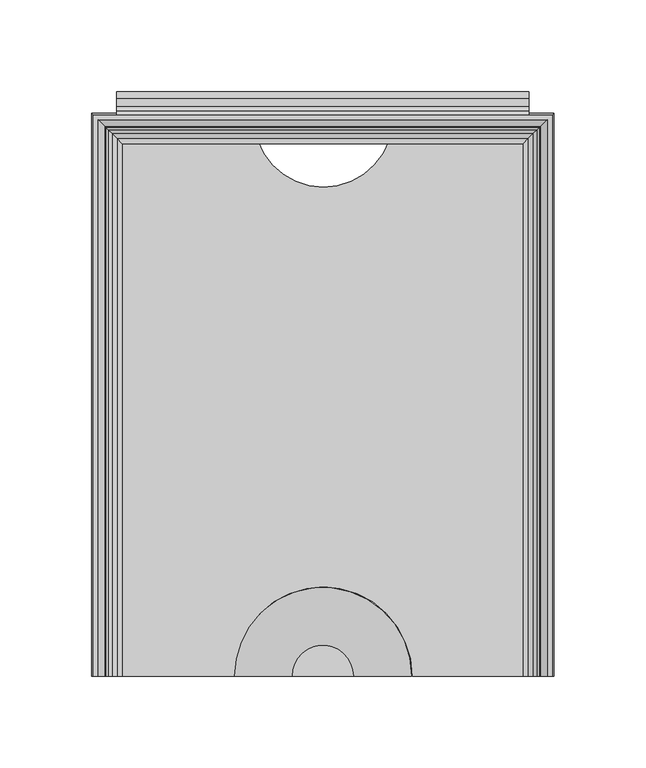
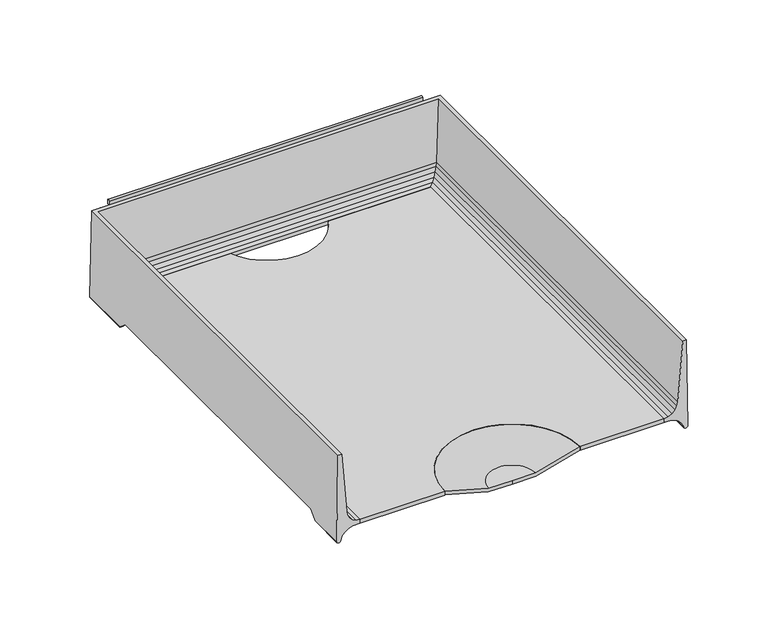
"""IFC4 building model written with IfcOpenShell, lengths in millimetres: furniture geometry."""

import ifcopenshell
import ifcopenshell.guid

model = None  # the IFC model being written
_history = None  # IfcOwnerHistory: only IFC2X3 demands one
_inside = {}  # id of a spatial element -> (the spatial element, [elements in it])
_under = {}  # id of a project, library or spatial element -> (it, [spatial elements below it])
_declared = {}  # id of a project -> (the project, [libraries it declares])
_typed = {}  # id of a type object -> (the type object, [elements of that type])
_made_of = {}  # id of a material, layer set ... -> (it, [elements and type objects made of it])


def new_model(schema):
    """Start an empty IFC model of exactly this schema.

    Asked for "IFC4X3", IfcOpenShell would pick the latest addendum, in which some entities
    have other attributes; the version numbers below select the first issue.
    IFC2X3 requires an IfcOwnerHistory on every rooted entity: one is made here for all.
    """
    global model, _history
    if schema == "IFC4X3":
        model = ifcopenshell.file(schema_version=(4, 3, 0, 0))
    else:
        model = ifcopenshell.file(schema=schema)
    _inside.clear()
    _under.clear()
    _declared.clear()
    _typed.clear()
    _made_of.clear()
    _history = None
    if model.schema == "IFC2X3":
        org = make("IfcOrganization", Name="unknown")
        user = make(
            "IfcPersonAndOrganization",
            ThePerson=make("IfcPerson", FamilyName="unknown"),
            TheOrganization=org,
        )
        app = make(
            "IfcApplication",
            ApplicationDeveloper=org,
            Version="unknown",
            ApplicationFullName="unknown",
            ApplicationIdentifier="unknown",
        )
        _history = make(
            "IfcOwnerHistory",
            OwningUser=user,
            OwningApplication=app,
            ChangeAction="ADDED",
            CreationDate=0,
        )
    return model


def make(cls, **values):
    """One entity of the class cls with the attributes given. An attribute that is None is left unset."""
    return model.create_entity(
        cls, **{name: value for name, value in values.items() if value is not None}
    )


def rooted(cls, **values):
    """An entity with a GlobalId (a new one), such as an element, a storey or a relation."""
    return make(cls, GlobalId=ifcopenshell.guid.new(), OwnerHistory=_history, **values)


def si_unit(unit_type, name, prefix=None):
    """IfcSIUnit, for example si_unit("LENGTHUNIT", "METRE", prefix="MILLI")."""
    return make("IfcSIUnit", UnitType=unit_type, Prefix=prefix, Name=name)


def assignment(units):
    """IfcUnitAssignment: the units of a project."""
    return None if units is None else make("IfcUnitAssignment", Units=units)


def point(xyz):
    """IfcCartesianPoint."""
    return None if xyz is None else make("IfcCartesianPoint", Coordinates=xyz)


def direction(xyz):
    """IfcDirection."""
    return None if xyz is None else make("IfcDirection", DirectionRatios=xyz)


def frame(location, z_axis=None, x_axis=None):
    """IfcAxis2Placement3D, a coordinate frame: its origin and axes. An axis left out is left unset."""
    return make(
        "IfcAxis2Placement3D",
        Location=point(location),
        Axis=direction(z_axis),
        RefDirection=direction(x_axis),
    )


def frame_2d(location, x_axis=None):
    """IfcAxis2Placement2D, a coordinate frame in the plane: its origin and x axis."""
    return make(
        "IfcAxis2Placement2D", Location=point(location), RefDirection=direction(x_axis)
    )


def origin():
    """The frame at (0, 0, 0) with its axes left unset."""
    return frame((0.0, 0.0, 0.0))


def place(relative_to, where):
    """IfcLocalPlacement: puts the frame where relative to a parent placement (None: the world)."""
    return make(
        "IfcLocalPlacement", PlacementRelTo=relative_to, RelativePlacement=where
    )


def context(
    kind, dimensions, precision=None, world=None, true_north=None, identifier=None
):
    """IfcGeometricRepresentationContext, for example the 3D "Model" context."""
    return make(
        "IfcGeometricRepresentationContext",
        ContextIdentifier=identifier,
        ContextType=kind,
        CoordinateSpaceDimension=dimensions,
        Precision=precision,
        WorldCoordinateSystem=world,
        TrueNorth=true_north,
    )


def project(units=None, contexts=None):
    """IfcProject with its units and contexts."""
    return rooted(
        "IfcProject",
        Name="project",
        RepresentationContexts=contexts,
        UnitsInContext=assignment(units),
    )


def spatial(cls, under=None, at=None, **own):
    """A site, building, storey or space (cls), placed at a placement, below another one or the project."""
    s = rooted(cls, ObjectPlacement=at, **own)
    if under is not None:
        _under.setdefault(under.id(), (under, []))[1].append(s)
    return s


def polyline(points):
    """IfcPolyline through the points."""
    return make("IfcPolyline", Points=[point(p) for p in points])


def circle_curve(where, radius):
    """IfcCircle in the frame where."""
    return make("IfcCircle", Position=where, Radius=radius)


def ellipse_curve(where, semi_axis1, semi_axis2):
    """IfcEllipse in the frame where."""
    return make(
        "IfcEllipse", Position=where, SemiAxis1=semi_axis1, SemiAxis2=semi_axis2
    )


def trimmed(basis, trim1, trim2, sense, master):
    """IfcTrimmedCurve: the piece of a basis curve between two trims."""
    return make(
        "IfcTrimmedCurve",
        BasisCurve=basis,
        Trim1=trim1,
        Trim2=trim2,
        SenseAgreement=sense,
        MasterRepresentation=master,
    )


def segment(curve, same_sense, transition):
    """IfcCompositeCurveSegment."""
    return make(
        "IfcCompositeCurveSegment",
        Transition=transition,
        SameSense=same_sense,
        ParentCurve=curve,
    )


def composite_curve(segments, self_intersect=None):
    """IfcCompositeCurve: segments joined end to end."""
    return make("IfcCompositeCurve", Segments=segments, SelfIntersect=self_intersect)


def outline(outer, holes=None, kind="AREA"):
    """IfcArbitraryClosedProfileDef: a profile drawn as a closed curve; with holes, ...WithVoids."""
    if holes is None:
        return make("IfcArbitraryClosedProfileDef", ProfileType=kind, OuterCurve=outer)
    return make(
        "IfcArbitraryProfileDefWithVoids",
        ProfileType=kind,
        OuterCurve=outer,
        InnerCurves=holes,
    )


def extrude(swept, where, along, depth):
    """IfcExtrudedAreaSolid: the profile swept, set in the frame where, extruded along a direction by depth."""
    return make(
        "IfcExtrudedAreaSolid",
        SweptArea=swept,
        Position=where,
        ExtrudedDirection=direction(along),
        Depth=depth,
    )


def shape(context_of_items, identifier, shape_type, items):
    """IfcShapeRepresentation: the items that make up one representation, for example the "Body"."""
    return make(
        "IfcShapeRepresentation",
        ContextOfItems=context_of_items,
        RepresentationIdentifier=identifier,
        RepresentationType=shape_type,
        Items=items,
    )


def source(mapping_origin, context_of_items, identifier, shape_type, items):
    """IfcRepresentationMap: a shape defined once, which mapped items show again and again."""
    return make(
        "IfcRepresentationMap",
        MappingOrigin=mapping_origin,
        MappedRepresentation=shape(context_of_items, identifier, shape_type, items),
    )


def transform(
    local_origin,
    x_axis=None,
    y_axis=None,
    z_axis=None,
    scale=None,
    scale2=None,
    scale3=None,
    uniform=True,
):
    """IfcCartesianTransformationOperator3D, or its non-uniform kind. x_axis, y_axis, z_axis: its Axis1, 2, 3."""
    if uniform:
        return make(
            "IfcCartesianTransformationOperator3D",
            Axis1=direction(x_axis),
            Axis2=direction(y_axis),
            LocalOrigin=point(local_origin),
            Scale=scale,
            Axis3=direction(z_axis),
        )
    return make(
        "IfcCartesianTransformationOperator3DnonUniform",
        Axis1=direction(x_axis),
        Axis2=direction(y_axis),
        LocalOrigin=point(local_origin),
        Scale=scale,
        Axis3=direction(z_axis),
        Scale2=scale2,
        Scale3=scale3,
    )


def mapped(mapping_source, mapping_target):
    """IfcMappedItem: shows the shape of a source again, moved by a transform."""
    return make(
        "IfcMappedItem", MappingSource=mapping_source, MappingTarget=mapping_target
    )


def made_of(thing, what):
    """Note that an element or type object is made of a material, layer set ...; save() writes the relation."""
    if what is not None:
        _made_of.setdefault(what.id(), (what, []))[1].append(thing)
    return thing


def element(
    cls,
    number,
    at=None,
    inside=None,
    cuts=None,
    type_object=None,
    material=None,
    context=None,
    identifier="Body",
    shape_type=None,
    held_by="IfcProductDefinitionShape",
    body=None,
    shapes=None,
    **own,
):
    """One element of the class cls, such as IfcWall. Its Tag is "e" and its number.

    at: its placement. inside: the storey or other place that contains it. cuts: it is an
    opening in that element (IfcRelVoidsElement). A single representation is given by context,
    identifier, shape_type and body (its items); several are given by shapes. held_by: the class
    of the entity that holds the representations. save() writes the other relations.
    """
    e = rooted(cls, Tag="e%d" % number, ObjectPlacement=at, **own)
    if body is not None:
        shapes = [shape(context, identifier, shape_type, body)]
    if shapes is not None:
        e.Representation = make(held_by, Representations=shapes)
    if inside is not None:
        _inside.setdefault(inside.id(), (inside, []))[1].append(e)
    if cuts is not None:
        rooted(
            "IfcRelVoidsElement", RelatingBuildingElement=cuts, RelatedOpeningElement=e
        )
    if type_object is not None:
        _typed.setdefault(type_object.id(), (type_object, []))[1].append(e)
    return made_of(e, material)


def aggregate(whole, parts):
    """IfcRelAggregates: a whole, such as a stair, and the parts it consists of."""
    return rooted("IfcRelAggregates", RelatingObject=whole, RelatedObjects=parts)


def save(model, path):
    """Write the relations noted so far, then the file.

    IfcRelAggregates (storeys below a building ...), IfcRelContainedInSpatialStructure (elements
    in a storey), IfcRelDefinesByType, IfcRelAssociatesMaterial and IfcRelDeclares: one each for
    every whole, place, type object, material and project.
    """
    for whole, parts in _under.values():
        aggregate(whole, parts)
    for where, things in _inside.values():
        rooted(
            "IfcRelContainedInSpatialStructure",
            RelatedElements=things,
            RelatingStructure=where,
        )
    for kind, things in _typed.values():
        rooted("IfcRelDefinesByType", RelatedObjects=things, RelatingType=kind)
    for what, things in _made_of.values():
        rooted("IfcRelAssociatesMaterial", RelatedObjects=things, RelatingMaterial=what)
    for by, libraries in _declared.values():
        rooted("IfcRelDeclares", RelatingContext=by, RelatedDefinitions=libraries)
    model.write(path)


def plane_surface(at):
    """IfcPlane: the flat surface through the origin of the frame at, square to its z axis."""
    return make("IfcPlane", Position=at)


def cylinder_surface(at, radius):
    """IfcCylindricalSurface: all points at the distance radius from the z axis of the frame at."""
    return make("IfcCylindricalSurface", Position=at, Radius=radius)


def revolved_surface(curve, axis_point, axis_direction):
    """IfcSurfaceOfRevolution: the curve turned about the line through axis_point along axis_direction."""
    return make(
        "IfcSurfaceOfRevolution",
        SweptCurve=make("IfcArbitraryOpenProfileDef", ProfileType="CURVE", Curve=curve),
        AxisPosition=make("IfcAxis1Placement", Location=point(axis_point), Axis=direction(axis_direction)),
    )


def advanced_brep(points, edges, surfaces, faces):
    """IfcAdvancedBrep: a solid bounded by faces that lie on surfaces and meet in shared edges.

    An edge is (start, end): straight between two places in points (the first is 0);
    or (start, end, curve); or (start, end, curve, False) where it runs against its curve.
    A face is (place in surfaces, loops), or (place, loops, False) where it looks against
    its surface's normal. A loop lists edges by number (the first is 1), with a minus sign
    where the edge is run from its end to its start. The first loop is the outer one.
    """
    corners = [point(p) for p in points]
    vertices = [make("IfcVertexPoint", VertexGeometry=c) for c in corners]
    made = []
    for start, end, *more in edges:
        made.append(
            make(
                "IfcEdgeCurve",
                EdgeStart=vertices[start],
                EdgeEnd=vertices[end],
                EdgeGeometry=more[0] if more else make("IfcPolyline", Points=[corners[start], corners[end]]),
                SameSense=more[1] if len(more) > 1 else True,
            )
        )
    hull = []
    for where, loops, *sense in faces:
        bounds = []
        for j, loop in enumerate(loops):
            ring = [make("IfcOrientedEdge", EdgeElement=made[abs(k) - 1], Orientation=k > 0) for k in loop]
            bounds.append(
                make(
                    "IfcFaceOuterBound" if j == 0 else "IfcFaceBound",
                    Bound=make("IfcEdgeLoop", EdgeList=ring),
                    Orientation=True,
                )
            )
        hull.append(make("IfcAdvancedFace", Bounds=bounds, FaceSurface=surfaces[where], SameSense=sense[0] if sense else True))
    return make("IfcAdvancedBrep", Outer=make("IfcClosedShell", CfsFaces=hull))


def furniture_f3e254ba(model_context):
    return source(origin(), model_context, "Body", "SolidModel", [
        advanced_brep(
        [(126.0820502, -154.0206082, 810.9007489), (125.1325529, -154.0206082, 876.3001914), (122.4547921, -154.0206082, 876.3001914), (118.8379747, -154.0206082, 831.5131003), (118.4123648, -154.0206082, 828.7796052), (117.0774354, -154.0206082, 826.0785664), (114.9656457, -154.0206082, 823.9296015), (112.28832, -154.0206082, 822.5477261), (109.3133381, -154.0206082, 822.0712052), (109.3133381, -154.0206082, 819.2490971), (114.5666739, -154.0206082, 819.0560987), (117.605351, -154.0206082, 817.9997218), (120.2416, -154.0206082, 816.1558822), (122.2762142, -154.0206082, 813.6639079), (123.1625518, -154.0206082, 810.6206655), (126.0820502, -127.6379698, 810.9007489), (126.0026181, -121.5231874, 816.371872), (126.0026181, 109.0611937, 816.371872), (126.0820502, 115.1759816, 810.9007489), (126.0820502, 153.036442, 810.9007489), (125.1325529, 152.0869447, 876.3001914), (-125.1325529, 152.0869447, 876.3001914), (-125.1325529, -154.0206082, 876.3001914), (-122.4547921, -154.0206082, 876.3001914), (-122.4547921, 149.4091839, 876.3001914), (122.4547921, 149.4091839, 876.3001914), (118.8379747, 145.7923665, 831.5131003), (118.4123648, 145.3667566, 828.7796052), (117.0774354, 144.0318272, 826.0785664), (114.9656457, 141.9200375, 823.9296015), (112.28832, 139.2427118, 822.5477261), (109.3133381, 136.2677299, 822.0712052), (109.3133381, 136.2677299, 819.2490971), (114.5666739, 141.5210656, 819.0560987), (117.605351, 144.5597428, 817.9997218), (120.2416, 147.1959918, 816.1558822), (120.2416, 109.3025941, 816.1558822), (119.9327864, 109.0611937, 816.371872), (119.9327864, -121.5231874, 816.371872), (120.2416, -121.7645876, 816.1558822), (122.2762142, -124.5497344, 813.6639079), (122.2762142, 149.230606, 813.6639079), (122.2762142, 112.0877435, 813.6639079), (123.1625518, -127.9510041, 810.6206655), (123.1625518, 150.1169436, 810.6206655), (123.1625518, 115.4890162, 810.6206655), (-126.0820502, 153.036442, 810.9007489), (-118.8379747, 145.7923665, 831.5131003), (-118.4123648, 145.3667566, 828.7796052), (-117.0774354, 144.0318272, 826.0785664), (-114.9656457, 141.9200375, 823.9296015), (-112.28832, 139.2427118, 822.5477261), (-109.3133381, 136.2677299, 822.0712052), (-109.3133381, 136.2677299, 819.2490971), (-114.5666739, 141.5210656, 819.0560987), (-117.605351, 144.5597428, 817.9997218), (-120.2416, 147.1959918, 816.1558822), (-122.2762142, 149.230606, 813.6639079), (-123.1625518, 150.1169436, 810.6206655), (-126.0820502, -154.0206082, 810.9007489), (-123.1625518, -154.0206082, 810.6206655), (-122.2762142, -154.0206082, 813.6639079), (-120.2416, -154.0206082, 816.1558822), (-117.605351, -154.0206082, 817.9997218), (-114.5666739, -154.0206082, 819.0560987), (-109.3133381, -154.0206082, 819.2490971), (-109.3133381, -154.0206082, 822.0712052), (-112.28832, -154.0206082, 822.5477261), (-114.9656457, -154.0206082, 823.9296015), (-117.0774354, -154.0206082, 826.0785664), (-118.4123648, -154.0206082, 828.7796052), (-118.8379747, -154.0206082, 831.5131003), (-126.0820502, 115.1759816, 810.9007489), (-126.0026181, 109.0611937, 816.371872), (-126.0026181, -121.5231874, 816.371872), (-126.0820502, -127.6379698, 810.9007489), (-120.2416, -121.7645876, 816.1558822), (-119.9327864, -121.5231874, 816.371872), (-119.9327864, 109.0611937, 816.371872), (-120.2416, 109.3025941, 816.1558822), (-122.2762142, 112.0877435, 813.6639079), (-122.2762142, -124.5497344, 813.6639079), (-123.1625518, 115.4890162, 810.6206655), (-123.1625518, -127.9510041, 810.6206655)],
        [
            (0, 1),
            (1, 2),
            (2, 3),
            (3, 4),
            (4, 5),
            (5, 6),
            (6, 7),
            (7, 8),
            (8, 9),
            (9, 10),
            (10, 11),
            (11, 12),
            (12, 13),
            (13, 14),
            (14, 0, circle_curve(frame((124.5859452, -154.0206082, 811.1396685), z_axis=(0.0, -1.0, 0.0), x_axis=(-1.0, 0.0, 0.0)), 1.515062)),
            (0, 15),
            (15, 16),
            (16, 17),
            (17, 18),
            (18, 19),
            (19, 20),
            (20, 1),
            (20, 21),
            (21, 22),
            (22, 23),
            (23, 24),
            (24, 25),
            (25, 2),
            (25, 26),
            (26, 3),
            (26, 27),
            (27, 4),
            (27, 28),
            (28, 5),
            (28, 29),
            (29, 6),
            (29, 30),
            (30, 7),
            (30, 31),
            (31, 8),
            (31, 32),
            (32, 9),
            (32, 33),
            (33, 10),
            (33, 34),
            (34, 11),
            (34, 35),
            (35, 36),
            (36, 37),
            (37, 38),
            (38, 39),
            (39, 12),
            (39, 40),
            (40, 13),
            (35, 41),
            (41, 42),
            (42, 36),
            (40, 43),
            (43, 14),
            (41, 44),
            (44, 45),
            (45, 42),
            (43, 15, ellipse_curve(frame((124.5859452, -127.3709422, 811.1396685), z_axis=(0.0, -0.6667949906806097, 0.7452411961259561), x_axis=(0.0, -0.7452411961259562, -0.6667949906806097)), 2.2721556, 1.515062)),
            (44, 19, ellipse_curve(frame((124.5859452, 151.540337, 811.1396685), z_axis=(0.7071067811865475, -0.7071067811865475, 0.0), x_axis=(-0.7071067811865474, -0.7071067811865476, 0.0)), 2.1426212, 1.515062)),
            (18, 45, ellipse_curve(frame((124.5859452, 114.9089538, 811.1396685), z_axis=(0.0, 0.6667946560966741, 0.7452414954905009), x_axis=(0.0, -0.7452414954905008, 0.6667946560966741)), 2.2721567, 1.515062)),
            (19, 46),
            (46, 21),
            (24, 47),
            (47, 26),
            (47, 48),
            (48, 27),
            (48, 49),
            (49, 28),
            (49, 50),
            (50, 29),
            (50, 51),
            (51, 30),
            (51, 52),
            (52, 31),
            (52, 53),
            (53, 32),
            (53, 54),
            (54, 33),
            (54, 55),
            (55, 34),
            (55, 56),
            (56, 35),
            (56, 57),
            (57, 41),
            (57, 58),
            (58, 44),
            (58, 46, ellipse_curve(frame((-124.5859452, 151.540337, 811.1396685), z_axis=(0.7071067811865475, 0.7071067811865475, 0.0), x_axis=(0.7071067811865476, -0.7071067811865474, 0.0)), 2.1426212, 1.515062)),
            (22, 59),
            (59, 60, circle_curve(frame((-124.5859452, -154.0206082, 811.1396685), z_axis=(0.0, -1.0, 0.0), x_axis=(1.0, 0.0, 0.0)), 1.515062)),
            (60, 61),
            (61, 62),
            (62, 63),
            (63, 64),
            (64, 65),
            (65, 66),
            (66, 67),
            (67, 68),
            (68, 69),
            (69, 70),
            (70, 71),
            (71, 23),
            (46, 72),
            (72, 73),
            (73, 74),
            (74, 75),
            (75, 59),
            (71, 47),
            (70, 48),
            (69, 49),
            (68, 50),
            (67, 51),
            (66, 52),
            (65, 53),
            (64, 54),
            (63, 55),
            (62, 76),
            (76, 77),
            (77, 78),
            (78, 79),
            (79, 56),
            (79, 80),
            (80, 57),
            (61, 81),
            (81, 76),
            (80, 82),
            (82, 58),
            (60, 83),
            (83, 81),
            (82, 72, ellipse_curve(frame((-124.5859452, 114.9089538, 811.1396685), z_axis=(0.0, 0.6667946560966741, 0.7452414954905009), x_axis=(0.0, 0.7452414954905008, -0.6667946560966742)), 2.2721567, 1.515062)),
            (75, 83, ellipse_curve(frame((-124.5859452, -127.3709422, 811.1396685), z_axis=(0.0, -0.6667949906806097, 0.7452411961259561), x_axis=(0.0, 0.745241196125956, 0.6667949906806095)), 2.2721556, 1.515062)),
            (38, 16),
            (74, 77),
            (37, 17),
            (73, 78),
        ],
        [
            plane_surface(frame((127.0, -154.0206082, 809.625), z_axis=(0.0, -1.0, 0.0), x_axis=(0.0, 0.0, 1.0))),
            plane_surface(frame((126.0820502, -154.0206082, 810.9007489), z_axis=(0.9998946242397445, 0.0, 0.014516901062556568), x_axis=(0.0, 1.0, 0.0))),
            plane_surface(frame((125.1325529, -154.0206082, 876.3001914), z_axis=(0.0, 0.0, 1.0), x_axis=(0.0, 1.0, 0.0))),
            plane_surface(frame((122.4547921, -154.0206082, 876.3001914), z_axis=(-0.9967551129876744, 0.0, 0.08049375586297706), x_axis=(0.0, 1.0, 0.0))),
            plane_surface(frame((118.8379747, -154.0206082, 831.5131003), z_axis=(-0.9880945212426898, 0.0, 0.15384803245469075), x_axis=(0.0, 1.0, 0.0))),
            plane_surface(frame((118.4123648, -154.0206082, 828.7796052), z_axis=(-0.8964873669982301, 0.0, 0.44306929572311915), x_axis=(0.0, 1.0, 0.0))),
            plane_surface(frame((117.0774354, -154.0206082, 826.0785664), z_axis=(-0.7132491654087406, 0.0, 0.7009105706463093), x_axis=(0.0, 1.0, 0.0))),
            plane_surface(frame((114.9656457, -154.0206082, 823.9296015), z_axis=(-0.45865074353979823, 0.0, 0.8886166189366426), x_axis=(0.0, 1.0, 0.0))),
            plane_surface(frame((112.28832, -154.0206082, 822.5477261), z_axis=(-0.15816001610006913, 0.0, 0.987413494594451), x_axis=(0.0, 1.0, 0.0))),
            plane_surface(frame((109.3133381, -154.0206082, 822.0712052), z_axis=(-1.0, 0.0, 0.0), x_axis=(0.0, 1.0, 0.0))),
            plane_surface(frame((109.3133381, -154.0206082, 819.2490971), z_axis=(-0.036713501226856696, 0.0, -0.9993258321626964), x_axis=(0.0, 1.0, 0.0))),
            plane_surface(frame((114.5666739, -154.0206082, 819.0560987), z_axis=(-0.3283669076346, 0.0, -0.9445502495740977), x_axis=(0.0, 1.0, 0.0))),
            plane_surface(frame((117.605351, -154.0206082, 817.9997218), z_axis=(-0.5731421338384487, 0.0, -0.819455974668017), x_axis=(0.0, 1.0, 0.0))),
            plane_surface(frame((120.2416, -154.0206082, 816.1558822), z_axis=(-0.77460799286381, 0.0, -0.6324416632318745), x_axis=(0.0, 1.0, 0.0))),
            plane_surface(frame((122.2762142, -154.0206082, 813.6639079), z_axis=(-0.9601080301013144, 0.0, -0.2796293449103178), x_axis=(0.0, 1.0, 0.0))),
            cylinder_surface(frame((124.5859452, -154.0206082, 811.1396685), z_axis=(0.0, -1.0, 0.0), x_axis=(-1.0, 0.0, 0.0)), 1.515062),
            plane_surface(frame((126.0820502, 153.036442, 810.9007489), z_axis=(0.0, 0.9998946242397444, 0.014516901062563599), x_axis=(-1.0, 0.0, 0.0))),
            plane_surface(frame((122.4547921, 149.4091839, 876.3001914), z_axis=(0.0, -0.9967551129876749, 0.08049375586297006), x_axis=(-1.0, 0.0, 0.0))),
            plane_surface(frame((118.8379747, 145.7923665, 831.5131003), z_axis=(0.0, -0.9880945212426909, 0.15384803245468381), x_axis=(-1.0, 0.0, 0.0))),
            plane_surface(frame((118.4123648, 145.3667566, 828.7796052), z_axis=(0.0, -0.8964873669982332, 0.4430692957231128), x_axis=(-1.0, 0.0, 0.0))),
            plane_surface(frame((117.0774354, 144.0318272, 826.0785664), z_axis=(0.0, -0.7132491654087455, 0.7009105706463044), x_axis=(-1.0, 0.0, 0.0))),
            plane_surface(frame((114.9656457, 141.9200375, 823.9296015), z_axis=(0.0, -0.4586507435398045, 0.8886166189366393), x_axis=(-1.0, 0.0, 0.0))),
            plane_surface(frame((112.28832, 139.2427118, 822.5477261), z_axis=(0.0, -0.15816001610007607, 0.9874134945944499), x_axis=(-1.0, 0.0, 0.0))),
            plane_surface(frame((109.3133381, 136.2677299, 822.0712052), z_axis=(0.0, -1.0, 0.0), x_axis=(-1.0, 0.0, 0.0))),
            plane_surface(frame((109.3133381, 136.2677299, 819.2490971), z_axis=(0.0, -0.03671350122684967, -0.9993258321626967), x_axis=(-1.0, 0.0, 0.0))),
            plane_surface(frame((114.5666739, 141.5210656, 819.0560987), z_axis=(0.0, -0.32836690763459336, -0.9445502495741), x_axis=(-1.0, 0.0, 0.0))),
            plane_surface(frame((117.605351, 144.5597428, 817.9997218), z_axis=(0.0, -0.5731421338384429, -0.819455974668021), x_axis=(-1.0, 0.0, 0.0))),
            plane_surface(frame((120.2416, 147.1959918, 816.1558822), z_axis=(0.0, -0.7746079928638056, -0.6324416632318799), x_axis=(-1.0, 0.0, 0.0))),
            plane_surface(frame((122.2762142, 149.230606, 813.6639079), z_axis=(0.0, -0.9601080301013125, -0.27962934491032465), x_axis=(-1.0, 0.0, 0.0))),
            cylinder_surface(frame((127.0, 151.540337, 811.1396685), z_axis=(1.0, 0.0, 0.0), x_axis=(0.0, -1.0, 0.0)), 1.515062),
            plane_surface(frame((-127.0, -154.0206082, 809.625), z_axis=(0.0, -1.0, 0.0), x_axis=(0.0, 0.0, 1.0))),
            plane_surface(frame((-126.0820502, 153.036442, 810.9007489), z_axis=(-0.9998946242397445, 0.0, 0.014516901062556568), x_axis=(0.0, -1.0, 0.0))),
            plane_surface(frame((-122.4547921, 149.4091839, 876.3001914), z_axis=(0.9967551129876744, 0.0, 0.08049375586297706), x_axis=(0.0, -1.0, 0.0))),
            plane_surface(frame((-118.8379747, 145.7923665, 831.5131003), z_axis=(0.9880945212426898, 0.0, 0.15384803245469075), x_axis=(0.0, -1.0, 0.0))),
            plane_surface(frame((-118.4123648, 145.3667566, 828.7796052), z_axis=(0.8964873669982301, 0.0, 0.44306929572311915), x_axis=(0.0, -1.0, 0.0))),
            plane_surface(frame((-117.0774354, 144.0318272, 826.0785664), z_axis=(0.7132491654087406, 0.0, 0.7009105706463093), x_axis=(0.0, -1.0, 0.0))),
            plane_surface(frame((-114.9656457, 141.9200375, 823.9296015), z_axis=(0.45865074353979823, 0.0, 0.8886166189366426), x_axis=(0.0, -1.0, 0.0))),
            plane_surface(frame((-112.28832, 139.2427118, 822.5477261), z_axis=(0.15816001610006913, 0.0, 0.987413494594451), x_axis=(0.0, -1.0, 0.0))),
            plane_surface(frame((-109.3133381, 136.2677299, 822.0712052), z_axis=(1.0, 0.0, 0.0), x_axis=(0.0, -1.0, 0.0))),
            plane_surface(frame((-109.3133381, 136.2677299, 819.2490971), z_axis=(0.036713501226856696, 0.0, -0.9993258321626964), x_axis=(0.0, -1.0, 0.0))),
            plane_surface(frame((-114.5666739, 141.5210656, 819.0560987), z_axis=(0.3283669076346, 0.0, -0.9445502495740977), x_axis=(0.0, -1.0, 0.0))),
            plane_surface(frame((-117.605351, 144.5597428, 817.9997218), z_axis=(0.5731421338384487, 0.0, -0.819455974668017), x_axis=(0.0, -1.0, 0.0))),
            plane_surface(frame((-120.2416, 147.1959918, 816.1558822), z_axis=(0.77460799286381, 0.0, -0.6324416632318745), x_axis=(0.0, -1.0, 0.0))),
            plane_surface(frame((-122.2762142, 149.230606, 813.6639079), z_axis=(0.9601080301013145, 0.0, -0.2796293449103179), x_axis=(0.0, -1.0, 0.0))),
            cylinder_surface(frame((-124.5859452, 153.9543918, 811.1396685), z_axis=(0.0, 1.0, 0.0), x_axis=(1.0, 0.0, 0.0)), 1.515062),
            plane_surface(frame((-127.0, -130.1695728, 808.6356296), z_axis=(0.0, 0.6667949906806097, -0.7452411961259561), x_axis=(1.0, 0.0, 0.0))),
            plane_surface(frame((-127.0, -121.5231874, 816.371872), z_axis=(0.0, 0.0, -1.0), x_axis=(1.0, 0.0, 0.0))),
            plane_surface(frame((-127.0, 109.0611937, 816.371872), z_axis=(0.0, -0.6667946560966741, -0.7452414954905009), x_axis=(1.0, 0.0, 0.0))),
        ],
        [
            (0, [[1, 2, 3, 4, 5, 6, 7, 8, 9, 10, 11, 12, 13, 14, 15]]),
            (1, [[-1, 16, 17, 18, 19, 20, 21, 22]]),
            (2, [[-2, -22, 23, 24, 25, 26, 27, 28]]),
            (3, [[-3, -28, 29, 30]]),
            (4, [[-4, -30, 31, 32]]),
            (5, [[-5, -32, 33, 34]]),
            (6, [[-6, -34, 35, 36]]),
            (7, [[-7, -36, 37, 38]]),
            (8, [[-8, -38, 39, 40]]),
            (9, [[-9, -40, 41, 42]]),
            (10, [[-10, -42, 43, 44]]),
            (11, [[-11, -44, 45, 46]]),
            (12, [[-12, -46, 47, 48, 49, 50, 51, 52]]),
            (13, [[-13, -52, 53, 54]]),
            (13, [[55, 56, 57, -48]]),
            (14, [[-14, -54, 58, 59]]),
            (14, [[60, 61, 62, -56]]),
            (15, [[-15, -59, 63, -16]]),
            (15, [[64, -20, 65, -61]]),
            (16, [[-21, 66, 67, -23]]),
            (17, [[-27, 68, 69, -29]]),
            (18, [[-31, -69, 70, 71]]),
            (19, [[-33, -71, 72, 73]]),
            (20, [[-35, -73, 74, 75]]),
            (21, [[-37, -75, 76, 77]]),
            (22, [[-39, -77, 78, 79]]),
            (23, [[-41, -79, 80, 81]]),
            (24, [[-43, -81, 82, 83]]),
            (25, [[-45, -83, 84, 85]]),
            (26, [[-47, -85, 86, 87]]),
            (27, [[-55, -87, 88, 89]]),
            (28, [[-60, -89, 90, 91]]),
            (29, [[-64, -91, 92, -66]]),
            (30, [[-25, 93, 94, 95, 96, 97, 98, 99, 100, 101, 102, 103, 104, 105, 106]]),
            (31, [[-24, -67, 107, 108, 109, 110, 111, -93]]),
            (32, [[-26, -106, 112, -68]]),
            (33, [[-70, -112, -105, 113]]),
            (34, [[-72, -113, -104, 114]]),
            (35, [[-74, -114, -103, 115]]),
            (36, [[-76, -115, -102, 116]]),
            (37, [[-78, -116, -101, 117]]),
            (38, [[-80, -117, -100, 118]]),
            (39, [[-82, -118, -99, 119]]),
            (40, [[-84, -119, -98, 120]]),
            (41, [[-86, -120, -97, 121, 122, 123, 124, 125]]),
            (42, [[-88, -125, 126, 127]]),
            (42, [[-96, 128, 129, -121]]),
            (43, [[-90, -127, 130, 131]]),
            (43, [[-95, 132, 133, -128]]),
            (44, [[-92, -131, 134, -107]]),
            (44, [[-94, -111, 135, -132]]),
            (45, [[136, -17, -63, -58, -53, -51]]),
            (45, [[137, -122, -129, -133, -135, -110]]),
            (46, [[-136, -50, 138, -18]]),
            (46, [[-137, -109, 139, -123]]),
            (47, [[-138, -49, -57, -62, -65, -19]]),
            (47, [[-139, -108, -134, -130, -126, -124]]),
        ],
    ),
        extrude(outline(composite_curve([segment(polyline([(-109.3647805, 138.2769393), (-35.6610422, 138.2769393)]), True, "CONTINUOUS"), segment(trimmed(circle_curve(frame_2d((0.3369133, 150.6584166)), 38.0677525), [point((-35.6610422, 138.2769393))], [point((36.3348688, 138.2769393))], True, "CARTESIAN"), True, "CONTINUOUS"), segment(polyline([(36.3348688, 138.2769393), (109.6504969, 138.2769393), (109.6504969, -153.9875), (48.9112184, -153.9875)]), True, "CONTINUOUS"), segment(trimmed(circle_curve(frame_2d((0.2842795, -153.9323196)), 48.6269702), [point((48.9112184, -153.9875))], [point((-48.3426595, -153.9875))], True, "CARTESIAN"), True, "CONTINUOUS"), segment(polyline([(-48.3426595, -153.9875), (-109.3647805, -153.9875), (-109.3647805, 138.2769393)]), True, "CONTINUOUS")], self_intersect=False)), frame((0.0, 0.0, 819.2314677), z_axis=(0.0, 0.0, 1.0), x_axis=(1.0, 0.0, 0.0)), (0.0, 0.0, 1.0), 2.8395461),
        extrude(outline(composite_curve([segment(trimmed(circle_curve(frame_2d((162.7186949, 860.4707343)), 1.9049988), [point((164.6236937, 860.4707343))], [point((160.8136962, 860.4707343))], False, "CARTESIAN"), True, "CONTINUOUS"), segment(polyline([(160.8136962, 860.4707343), (160.8136962, 863.8997311), (160.0516969, 864.6617303), (156.4380325, 864.6617303), (152.1427596, 862.3143331), (152.1427596, 870.8191285), (156.4380325, 868.4717312), (160.8136928, 868.4717312)]), True, "CONTINUOUS"), segment(trimmed(circle_curve(frame_2d((160.8136928, 864.6617303)), 3.8100009), [point((160.8136928, 868.4717312))], [point((164.6236937, 864.6617303))], False, "CARTESIAN"), True, "CONTINUOUS"), segment(polyline([(164.6236937, 864.6617303), (164.6236937, 860.4707343)]), True, "CONTINUOUS")], self_intersect=False)), frame((-112.5397809, 0.0, 0.0), z_axis=(1.0, 0.0, 0.0), x_axis=(0.0, 1.0, 0.0)), (0.0, 0.0, 1.0), 225.0795617),
        advanced_brep(
        [(-16.8929028, -153.9875, 813.196875), (-48.4614622, -153.9875, 822.1045432), (-48.4614622, -153.9875, 819.5130018), (-16.9249292, -153.9875, 810.6143704), (0.0, -153.9875, 810.6143704), (0.0, -153.9875, 813.196875), (16.8929028, -153.9875, 813.196875), (16.9249292, -153.9875, 810.6143704), (48.4614622, -153.9875, 819.5130018), (48.4614622, -153.9875, 822.1045432)],
        [
            (0, 1),
            (1, 2),
            (2, 3),
            (3, 4),
            (4, 5),
            (5, 0),
            (6, 5),
            (4, 7),
            (7, 8),
            (8, 9),
            (9, 6),
            (9, 1, circle_curve(frame((0.0, -153.9875, 822.1045432), z_axis=(0.0, 0.0, 1.0), x_axis=(-1.0, 0.0, 0.0)), 48.4614622)),
            (0, 6, circle_curve(frame((0.0, -153.9875, 813.196875), z_axis=(0.0, 0.0, -1.0), x_axis=(-1.0, 0.0, 0.0)), 16.8929028)),
            (8, 2, circle_curve(frame((0.0, -153.9875, 819.5130018), z_axis=(0.0, 0.0, 1.0), x_axis=(-1.0, 0.0, 0.0)), 48.4614622)),
            (7, 3, circle_curve(frame((0.0, -153.9875, 810.6143704), z_axis=(0.0, 0.0, 1.0), x_axis=(-1.0, 0.0, 0.0)), 16.9249292)),
        ],
        [
            plane_surface(frame((0.0, -153.9875, 809.625), z_axis=(0.0, -1.0, 0.0), x_axis=(-1.0, 0.0, 0.0))),
            plane_surface(frame((0.0, -153.9875, 809.625), z_axis=(0.0, -1.0, 0.0), x_axis=(1.0, 0.0, 0.0))),
            revolved_surface(polyline([(-48.4614622, -153.9875, 822.1045432), (-16.8929028, -153.9875, 813.196875)]), (0.0, -153.9875, 809.625), (0.0, 0.0, 1.0)),
            cylinder_surface(frame((0.0, -153.9875, 809.625), z_axis=(0.0, 0.0, 1.0), x_axis=(-1.0, 0.0, 0.0)), 48.4614622),
            revolved_surface(polyline([(-16.9249292, -153.9875, 810.6143704), (-48.4614622, -153.9875, 819.5130018)]), (0.0, -153.9875, 809.625), (0.0, 0.0, 1.0)),
            plane_surface(frame((0.0, -153.9875, 810.6143704), z_axis=(0.0, 0.0, -1.0), x_axis=(-1.0, 0.0, 0.0))),
            plane_surface(frame((0.0, -153.9875, 813.196875), z_axis=(0.0, 0.0, 1.0), x_axis=(-1.0, 0.0, 0.0))),
        ],
        [
            (0, [[1, 2, 3, 4, 5, 6]]),
            (1, [[7, -5, 8, 9, 10, 11]]),
            (2, [[12, -1, 13, -11]]),
            (3, [[14, -2, -12, -10]]),
            (4, [[15, -3, -14, -9]]),
            (5, [[-4, -15, -8]]),
            (6, [[-13, -6, -7]]),
        ],
    ),
        extrude(outline(composite_curve([segment(polyline([(153.9875, 876.3), (152.1427596, 876.3), (152.1427596, 879.1315333)]), True, "CONTINUOUS"), segment(trimmed(circle_curve(frame_2d((153.0651298, 878.8262665)), 0.9715733), [point((152.1427596, 879.1315333))], [point((153.9875, 879.1315333))], False, "CARTESIAN"), True, "CONTINUOUS"), segment(polyline([(153.9875, 879.1315333), (153.9875, 876.3)]), True, "CONTINUOUS")], self_intersect=False)), frame((-112.5397809, 0.0, 0.0), z_axis=(1.0, 0.0, 0.0), x_axis=(0.0, 1.0, 0.0)), (0.0, 0.0, 1.0), 225.0795617),
    ])


if __name__ == "__main__":
    model = new_model("IFC4")
    model_context = context("Model", 3, world=origin())
    ifc_project = project(units=[si_unit("LENGTHUNIT", "METRE", prefix="MILLI")], contexts=[model_context])
    site = spatial("IfcSite", under=ifc_project)
    building = spatial("IfcBuilding", under=site)
    placement = place(None, origin())
    furniture_shape = furniture_f3e254ba(model_context)
    element("IfcFurniture", 1, ObjectType="HermanMiller_ThrivePortfolio_Y7216_PaperTray : 3\"H x 12\"D x 10\"W", at=placement, inside=building, context=model_context, shape_type="MappedRepresentation", body=[
        mapped(furniture_shape, transform((0.0, 0.0, 0.0), x_axis=(1.0, 0.0, 0.0), y_axis=(0.0, 1.0, 0.0), z_axis=(0.0, 0.0, 1.0))),
    ])
    save(model, "model.ifc")
